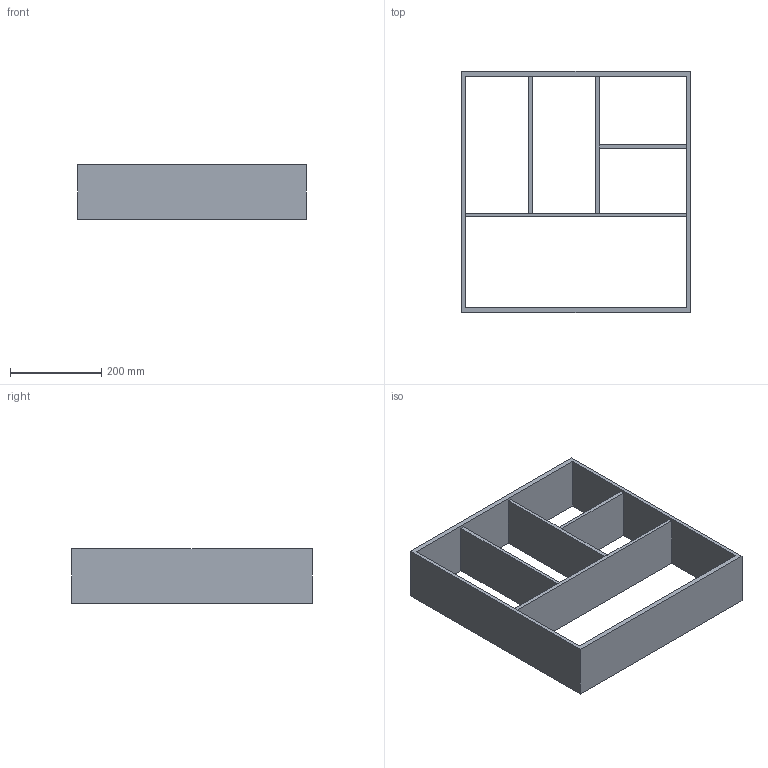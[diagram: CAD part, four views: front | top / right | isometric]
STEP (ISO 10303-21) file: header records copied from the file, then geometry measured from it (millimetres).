
FILE_DESCRIPTION (( 'STEP AP214' ), '1' );
FILE_NAME ('Vario Multi H120 NL550_B600_19 mm_Alu-Alu.step', '2010-10-08T09:48:11', ( 'grass' ), ( '' ), 'SwSTEP 2.0', 'SolidWorks 2010', '' );
FILE_SCHEMA (( 'AUTOMOTIVE_DESIGN' ));
Length unit declared in the file: millimetre
Products named in the file (1): Vario Multi H120 NL550_B600_19 mm_Alu-Alu
Bounding box: 502 x 529 x 120 mm (x, y, z)
Volume: 3463629.7 mm3; surface area: 828447.1 mm2
Topology: 1 solids, 1 shells, 29 faces, 80 edges, 52 vertices
Faces by surface type: plane 29
Entity records: 956 total; most frequent: CARTESIAN_POINT 162, ORIENTED_EDGE 160, DIRECTION 140, EDGE_CURVE 80, LINE 80, VECTOR 80, VERTEX_POINT 52, EDGE_LOOP 38
